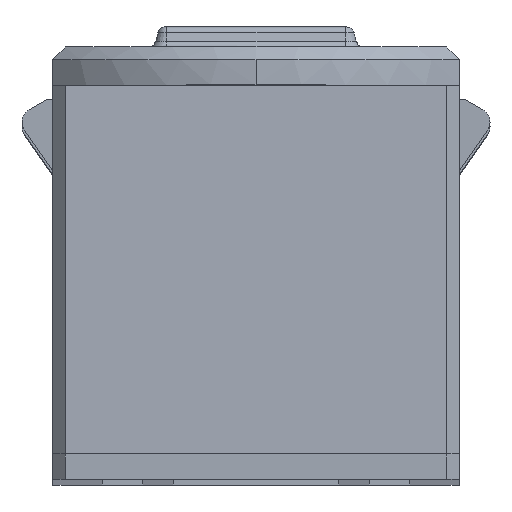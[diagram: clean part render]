
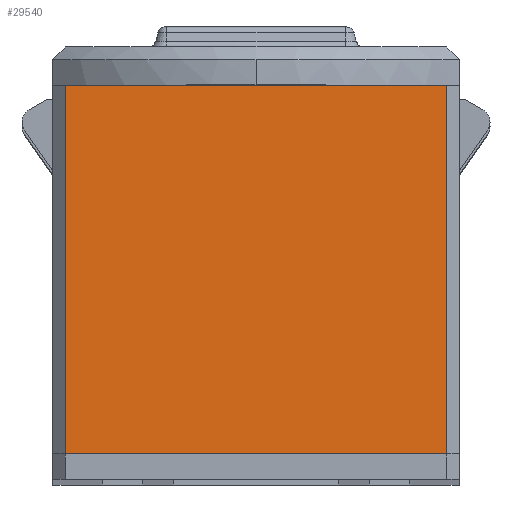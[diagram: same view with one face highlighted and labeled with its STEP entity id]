
A CAD part, top view. The second image highlights one B-rep face of the part: STEP entity #29540.
In plain terms, the highlighted planar face has unit normal (0, 0.018, 1).
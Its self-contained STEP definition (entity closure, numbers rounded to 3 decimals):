
#955 = LINE ( 'NONE', #10535, #14316 ) ;
#4226 = PLANE ( 'NONE',  #5160 ) ;
#4703 = ORIENTED_EDGE ( 'NONE', *, *, #29676, .T. ) ;
#5160 = AXIS2_PLACEMENT_3D ( 'NONE', #6902, #25596, #9591 ) ;
#6415 = CARTESIAN_POINT ( 'NONE',  ( -7.5, 0., 65. ) ) ;
#6621 = EDGE_CURVE ( 'NONE', #7681, #33400, #21862, .T. ) ;
#6902 = CARTESIAN_POINT ( 'NONE',  ( -9.583, 0., 65. ) ) ;
#7622 = VECTOR ( 'NONE', #8149, 1000. ) ;
#7681 = VERTEX_POINT ( 'NONE', #11448 ) ;
#7716 = DIRECTION ( 'NONE',  ( -1., 0., 0. ) ) ;
#8149 = DIRECTION ( 'NONE',  ( -1., 0., 0. ) ) ;
#9591 = DIRECTION ( 'NONE',  ( 0., -1., 0.017 ) ) ;
#10535 = CARTESIAN_POINT ( 'NONE',  ( 7.5, 14.5, 64.747 ) ) ;
#11448 = CARTESIAN_POINT ( 'NONE',  ( 7.5, 0., 65. ) ) ;
#11903 = CARTESIAN_POINT ( 'NONE',  ( -7.5, 14.5, 64.747 ) ) ;
#13763 = CARTESIAN_POINT ( 'NONE',  ( -7.5, 0., 65. ) ) ;
#14158 = LINE ( 'NONE', #23692, #21256 ) ;
#14316 = VECTOR ( 'NONE', #23820, 1000. ) ;
#16034 = ORIENTED_EDGE ( 'NONE', *, *, #24491, .F. ) ;
#16435 = VECTOR ( 'NONE', #22533, 1000. ) ;
#16577 = EDGE_LOOP ( 'NONE', ( #16034, #4703, #19982, #29580 ) ) ;
#18109 = LINE ( 'NONE', #6415, #16435 ) ;
#19982 = ORIENTED_EDGE ( 'NONE', *, *, #33793, .T. ) ;
#21256 = VECTOR ( 'NONE', #7716, 1000. ) ;
#21862 = LINE ( 'NONE', #29406, #7622 ) ;
#22148 = CARTESIAN_POINT ( 'NONE',  ( 7.5, 14.5, 64.747 ) ) ;
#22533 = DIRECTION ( 'NONE',  ( 0., -1., 0.017 ) ) ;
#23372 = VERTEX_POINT ( 'NONE', #11903 ) ;
#23692 = CARTESIAN_POINT ( 'NONE',  ( -9.583, 14.5, 64.747 ) ) ;
#23820 = DIRECTION ( 'NONE',  ( 0., -1., 0.017 ) ) ;
#24491 = EDGE_CURVE ( 'NONE', #25392, #7681, #955, .T. ) ;
#25392 = VERTEX_POINT ( 'NONE', #22148 ) ;
#25596 = DIRECTION ( 'NONE',  ( 0., 0.017, 1. ) ) ;
#29406 = CARTESIAN_POINT ( 'NONE',  ( -8., 0., 65. ) ) ;
#29540 = ADVANCED_FACE ( 'NONE', ( #31715 ), #4226, .T. ) ;
#29580 = ORIENTED_EDGE ( 'NONE', *, *, #6621, .F. ) ;
#29676 = EDGE_CURVE ( 'NONE', #25392, #23372, #14158, .T. ) ;
#31715 = FACE_OUTER_BOUND ( 'NONE', #16577, .T. ) ;
#33400 = VERTEX_POINT ( 'NONE', #13763 ) ;
#33793 = EDGE_CURVE ( 'NONE', #23372, #33400, #18109, .T. ) ;
